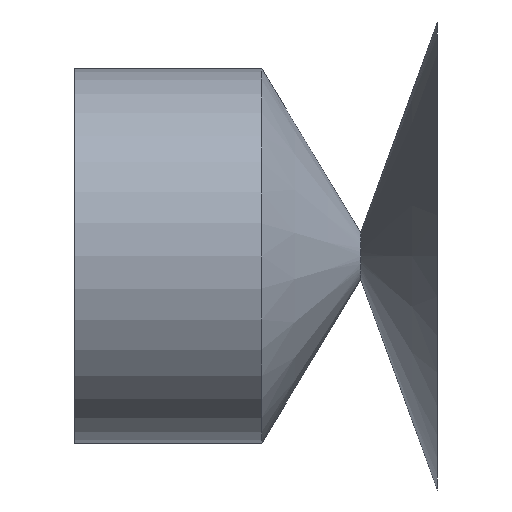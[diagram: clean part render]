
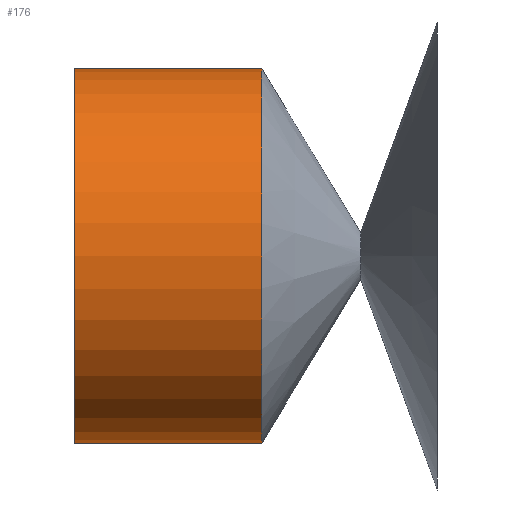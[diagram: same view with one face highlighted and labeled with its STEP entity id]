
A CAD part, left-side view. The second image highlights one B-rep face of the part: STEP entity #176.
In plain terms, the highlighted cylindrical face has radius 8 mm (diameter 16 mm), a partial arc.
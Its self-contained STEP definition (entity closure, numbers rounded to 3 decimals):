
#5 = CARTESIAN_POINT ( 'NONE',  ( 0., 7.5, -8. ) ) ;
#14 = CIRCLE ( 'NONE', #342, 8. ) ;
#19 = EDGE_CURVE ( 'NONE', #360, #196, #394, .T. ) ;
#20 = DIRECTION ( 'NONE',  ( 0., 0., -1. ) ) ;
#60 = ORIENTED_EDGE ( 'NONE', *, *, #126, .F. ) ;
#71 = CARTESIAN_POINT ( 'NONE',  ( 0., 0., 8. ) ) ;
#94 = CARTESIAN_POINT ( 'NONE',  ( 0., 7.5, 8. ) ) ;
#115 = AXIS2_PLACEMENT_3D ( 'NONE', #341, #333, #403 ) ;
#126 = EDGE_CURVE ( 'NONE', #196, #437, #243, .T. ) ;
#137 = DIRECTION ( 'NONE',  ( 0., -1., 0. ) ) ;
#142 = DIRECTION ( 'NONE',  ( 0., 0., -1. ) ) ;
#146 = VECTOR ( 'NONE', #137, 1000. ) ;
#159 = AXIS2_PLACEMENT_3D ( 'NONE', #209, #177, #20 ) ;
#161 = VECTOR ( 'NONE', #405, 1000. ) ;
#176 = ADVANCED_FACE ( 'NONE', ( #249 ), #387, .T. ) ;
#177 = DIRECTION ( 'NONE',  ( 0., -1., 0. ) ) ;
#183 = EDGE_LOOP ( 'NONE', ( #301, #267, #241, #60 ) ) ;
#196 = VERTEX_POINT ( 'NONE', #94 ) ;
#209 = CARTESIAN_POINT ( 'NONE',  ( 0., 7.5, 0. ) ) ;
#241 = ORIENTED_EDGE ( 'NONE', *, *, #359, .T. ) ;
#243 = CIRCLE ( 'NONE', #159, 8. ) ;
#249 = FACE_OUTER_BOUND ( 'NONE', #183, .T. ) ;
#267 = ORIENTED_EDGE ( 'NONE', *, *, #369, .T. ) ;
#279 = LINE ( 'NONE', #408, #161 ) ;
#301 = ORIENTED_EDGE ( 'NONE', *, *, #19, .F. ) ;
#333 = DIRECTION ( 'NONE',  ( 0., -1., 0. ) ) ;
#340 = CARTESIAN_POINT ( 'NONE',  ( 0., 15.5, -8. ) ) ;
#341 = CARTESIAN_POINT ( 'NONE',  ( 0., 0., 0. ) ) ;
#342 = AXIS2_PLACEMENT_3D ( 'NONE', #453, #499, #142 ) ;
#359 = EDGE_CURVE ( 'NONE', #520, #437, #279, .T. ) ;
#360 = VERTEX_POINT ( 'NONE', #438 ) ;
#369 = EDGE_CURVE ( 'NONE', #360, #520, #14, .T. ) ;
#387 = CYLINDRICAL_SURFACE ( 'NONE', #115, 8. ) ;
#394 = LINE ( 'NONE', #71, #146 ) ;
#403 = DIRECTION ( 'NONE',  ( 0., 0., -1. ) ) ;
#405 = DIRECTION ( 'NONE',  ( 0., -1., 0. ) ) ;
#408 = CARTESIAN_POINT ( 'NONE',  ( 0., 0., -8. ) ) ;
#437 = VERTEX_POINT ( 'NONE', #5 ) ;
#438 = CARTESIAN_POINT ( 'NONE',  ( 0., 15.5, 8. ) ) ;
#453 = CARTESIAN_POINT ( 'NONE',  ( 0., 15.5, 0. ) ) ;
#499 = DIRECTION ( 'NONE',  ( 0., -1., 0. ) ) ;
#520 = VERTEX_POINT ( 'NONE', #340 ) ;
